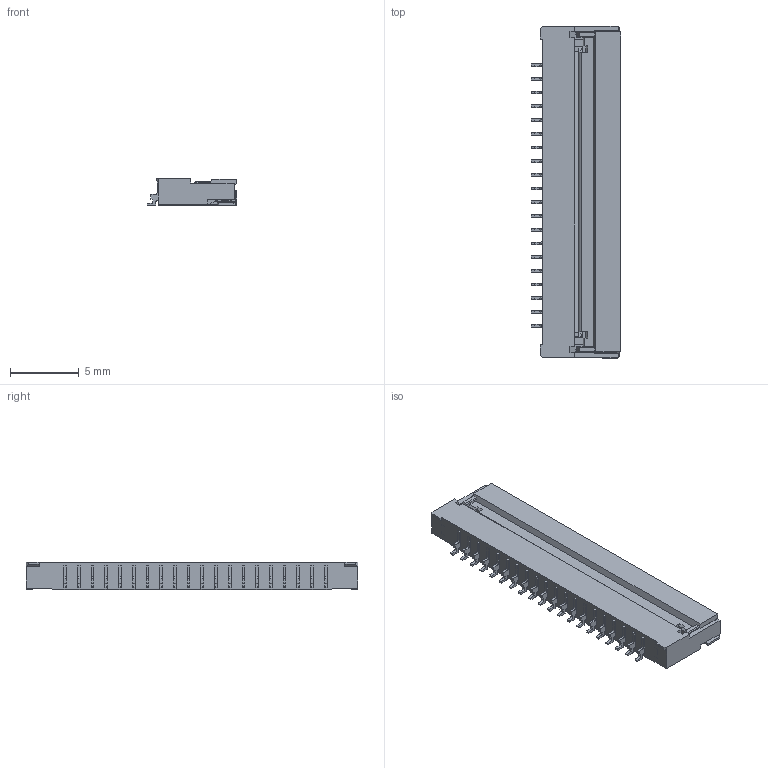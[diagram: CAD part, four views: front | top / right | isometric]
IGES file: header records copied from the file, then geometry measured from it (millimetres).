
Start section: SolidWorks IGES file using analytic representation for surfaces
Bounding box: 6.5 x 24.22 x 2 mm (x, y, z)
Surface area: 649.9 mm2 (no closed solid volume)
Topology: 0 solids, 0 shells, 601 faces, 3985 edges, 3984 vertices
Faces by surface type: bspline 455, revolution 146
